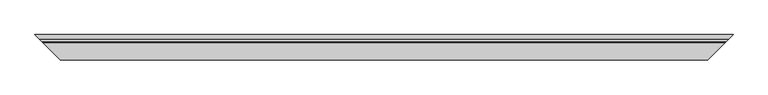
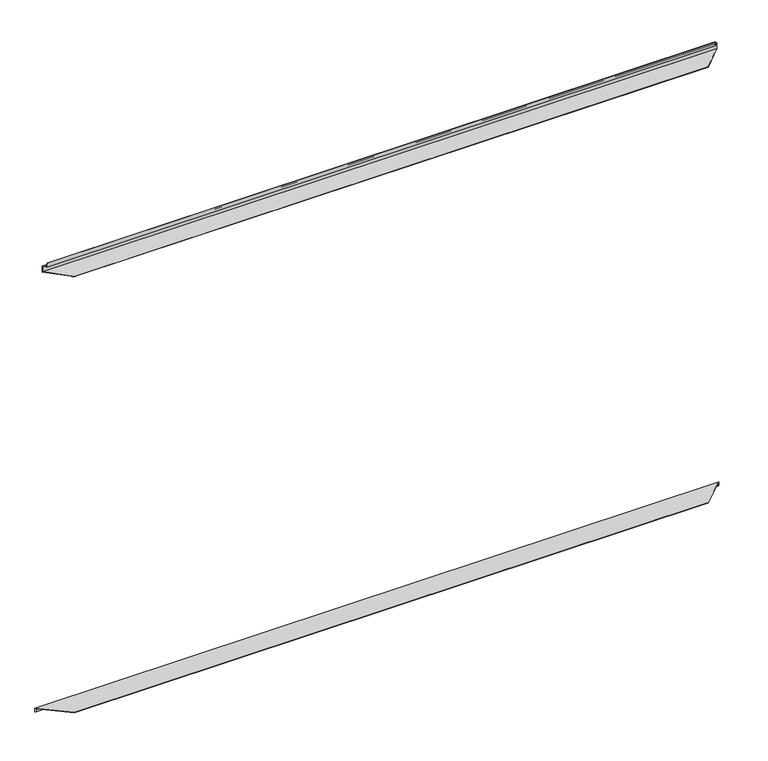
"""IFC4 building model written with IfcOpenShell, lengths in millimetres: plate geometry, Trimo_Qbiss Screen_Wall Opening Trims-HORIZONTAL : HR - B."""

from ifc_helpers import new_model, si_unit, frame, origin, place, context, project, spatial, polyline, outline, extrude, faceted_brep, source, transform, mapped, element, save


def plate_518c333e(model_context):
    return source(origin(), model_context, "Body", "SolidModel", [
        faceted_brep([(3171.0, 71.0, 4524.5), (3171.0, 71.0, 4487.0), (-3171.0, 71.0, 4487.0), (-3171.0, 71.0, 4524.5), (3170.0, 70.0, 4524.5), (-3170.0, 70.0, 4524.5), (3170.0, 70.0, 4486.0), (-3170.0, 70.0, 4486.0), (3199.0, 99.0, 4486.0), (-3199.0, 99.0, 4486.0), (3199.0, 99.0, 4430.0), (-3199.0, 99.0, 4430.0), (3008.0, -92.0, 4430.0), (-3008.0, -92.0, 4430.0), (3008.0, -92.0, 4429.0), (-3008.0, -92.0, 4429.0), (3200.0, 100.0, 4429.0), (-3200.0, 100.0, 4429.0), (3200.0, 100.0, 4487.0), (-3200.0, 100.0, 4487.0)], [[[0, 1, 2, 3]], [[4, 0, 3, 5]], [[6, 4, 5, 7]], [[8, 6, 7, 9]], [[10, 8, 9, 11]], [[12, 10, 11, 13]], [[14, 12, 13, 15]], [[16, 14, 15, 17]], [[18, 16, 17, 19]], [[1, 18, 19, 2]], [[1, 0, 4, 6, 8, 10, 12, 14, 16, 18]], [[3, 2, 19, 17, 15, 13, 11, 9, 7, 5]]]),
        faceted_brep([(-3238.0, 138.0, 29.8042278), (-3238.0, 138.0, 0.0), (3238.0, 138.0, 0.0), (3238.0, 138.0, 29.8042278), (-3245.0, 145.0, 0.0), (3245.0, 145.0, 0.0), (-3245.0, 145.0, 36.234396), (3245.0, 145.0, 36.234396), (-3008.0, -92.0, 56.3821274), (3008.0, -92.0, 56.3821274), (-3008.0, -92.0, 49.3568786), (3008.0, -92.0, 49.3568786)], [[[0, 1, 2, 3]], [[4, 5, 2, 1]], [[5, 4, 6, 7]], [[7, 6, 8, 9]], [[8, 10, 11, 9]], [[10, 0, 3, 11]], [[1, 0, 10, 8, 6, 4]], [[3, 2, 5, 7, 9, 11]]]),
        extrude(outline(polyline([(-3171.0, 71.0), (-3176.0, 76.0), (3176.0, 76.0), (3171.0, 71.0), (-3171.0, 71.0)])), frame((0.0, 0.0, 4488.0), z_axis=(0.0, 0.0, 1.0), x_axis=(1.0, 0.0, 0.0)), (0.0, 0.0, 1.0), 21.0),
    ])


if __name__ == "__main__":
    model = new_model("IFC4")
    model_context = context("Model", 3, world=origin())
    ifc_project = project(units=[si_unit("LENGTHUNIT", "METRE", prefix="MILLI")], contexts=[model_context])
    site = spatial("IfcSite", under=ifc_project)
    building = spatial("IfcBuilding", under=site)
    placement = place(None, origin())
    plate_shape = plate_518c333e(model_context)
    element("IfcPlate", 1, ObjectType="Trimo_Qbiss Screen_Wall Opening Trims-HORIZONTAL : HR - B", at=placement, inside=building, context=model_context, shape_type="MappedRepresentation", body=[
        mapped(plate_shape, transform((0.0, 0.0, 0.0), x_axis=(1.0, 0.0, 0.0), y_axis=(0.0, 1.0, 0.0), z_axis=(0.0, 0.0, 1.0))),
    ])
    save(model, "model.ifc")
